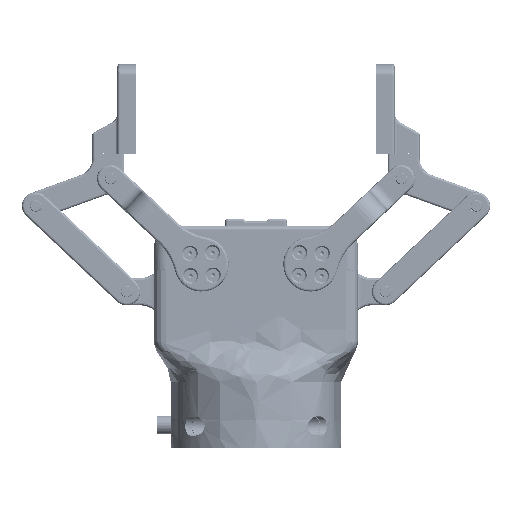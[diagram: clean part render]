
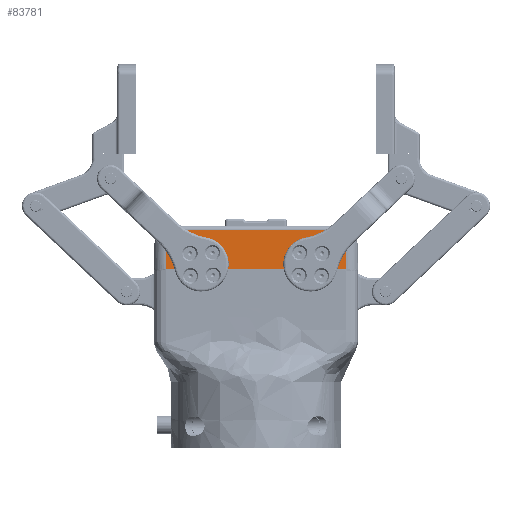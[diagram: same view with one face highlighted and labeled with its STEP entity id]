
A CAD part, top view. The second image highlights one B-rep face of the part: STEP entity #83781.
In plain terms, the highlighted planar face has unit normal (0, 0, 1).
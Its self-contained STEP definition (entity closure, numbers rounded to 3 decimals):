
#1535 = EDGE_CURVE ( 'NONE', #138266, #131244, #233007, .T. ) ;
#3807 = PLANE ( 'NONE',  #89469 ) ;
#12967 = CIRCLE ( 'NONE', #228115, 11.1 ) ;
#15771 = DIRECTION ( 'NONE',  ( 0., 0., 1. ) ) ;
#23408 = DIRECTION ( 'NONE',  ( 0., -1., 0. ) ) ;
#26548 = CARTESIAN_POINT ( 'NONE',  ( -39.75, 78.85, 24. ) ) ;
#31200 = DIRECTION ( 'NONE',  ( -1., 0., 0. ) ) ;
#33441 = VECTOR ( 'NONE', #23408, 1000. ) ;
#35302 = AXIS2_PLACEMENT_3D ( 'NONE', #241891, #328070, #160421 ) ;
#35786 = CARTESIAN_POINT ( 'NONE',  ( 35., 95.75, 24. ) ) ;
#37979 = CARTESIAN_POINT ( 'NONE',  ( -24., 80.75, 24. ) ) ;
#39850 = VERTEX_POINT ( 'NONE', #176173 ) ;
#42395 = CARTESIAN_POINT ( 'NONE',  ( 35., 95.75, 24. ) ) ;
#43286 = AXIS2_PLACEMENT_3D ( 'NONE', #264673, #15771, #233063 ) ;
#43569 = CARTESIAN_POINT ( 'NONE',  ( 38.362, 95.211, 24. ) ) ;
#46152 = EDGE_CURVE ( 'NONE', #39850, #281504, #285322, .T. ) ;
#49156 = CARTESIAN_POINT ( 'NONE',  ( -36.724, 95.75, 24. ) ) ;
#52901 = EDGE_CURVE ( 'NONE', #131244, #135301, #334523, .T. ) ;
#55506 = CARTESIAN_POINT ( 'NONE',  ( -45., 78.85, 24. ) ) ;
#58397 = EDGE_CURVE ( 'NONE', #146447, #309860, #341947, .T. ) ;
#59513 = CARTESIAN_POINT ( 'NONE',  ( 39.75, 78.85, 24. ) ) ;
#68324 = ORIENTED_EDGE ( 'NONE', *, *, #183040, .F. ) ;
#71184 = EDGE_CURVE ( 'NONE', #84314, #178158, #99959, .T. ) ;
#82882 = ORIENTED_EDGE ( 'NONE', *, *, #1535, .F. ) ;
#83781 = ADVANCED_FACE ( 'NONE', ( #171485 ), #3807, .F. ) ;
#84314 = VERTEX_POINT ( 'NONE', #26548 ) ;
#86923 = VECTOR ( 'NONE', #31200, 1000. ) ;
#88183 = ORIENTED_EDGE ( 'NONE', *, *, #58397, .F. ) ;
#89469 = AXIS2_PLACEMENT_3D ( 'NONE', #255115, #308482, #282966 ) ;
#90471 = VERTEX_POINT ( 'NONE', #35786 ) ;
#94961 = CARTESIAN_POINT ( 'NONE',  ( -35., 95.75, 24. ) ) ;
#97640 = VECTOR ( 'NONE', #121968, 1000. ) ;
#99580 = ORIENTED_EDGE ( 'NONE', *, *, #139298, .F. ) ;
#99959 = LINE ( 'NONE', #306371, #334512 ) ;
#102387 = VECTOR ( 'NONE', #209434, 1000. ) ;
#107369 = CARTESIAN_POINT ( 'NONE',  ( -35., 95.75, 24. ) ) ;
#116396 = CARTESIAN_POINT ( 'NONE',  ( 13.064, 78.85, 24. ) ) ;
#118723 = CARTESIAN_POINT ( 'NONE',  ( -12.9, 80.75, 24. ) ) ;
#121968 = DIRECTION ( 'NONE',  ( -1., 0., 0. ) ) ;
#123726 = CARTESIAN_POINT ( 'NONE',  ( 36.724, 95.75, 24. ) ) ;
#131244 = VERTEX_POINT ( 'NONE', #224231 ) ;
#135301 = VERTEX_POINT ( 'NONE', #174331 ) ;
#136609 = LINE ( 'NONE', #233650, #97640 ) ;
#138266 = VERTEX_POINT ( 'NONE', #118723 ) ;
#139298 = EDGE_CURVE ( 'NONE', #135301, #84314, #160787, .T. ) ;
#143799 = AXIS2_PLACEMENT_3D ( 'NONE', #37979, #176350, #179942 ) ;
#146447 = VERTEX_POINT ( 'NONE', #190375 ) ;
#149986 = CARTESIAN_POINT ( 'NONE',  ( -45., 78.85, 24. ) ) ;
#160421 = DIRECTION ( 'NONE',  ( 1., 0., 0. ) ) ;
#160787 = LINE ( 'NONE', #55506, #86923 ) ;
#161818 = ORIENTED_EDGE ( 'NONE', *, *, #311613, .F. ) ;
#165077 = ORIENTED_EDGE ( 'NONE', *, *, #263326, .F. ) ;
#165912 = CARTESIAN_POINT ( 'NONE',  ( -24., 80.75, 24. ) ) ;
#171485 = FACE_OUTER_BOUND ( 'NONE', #209924, .T. ) ;
#174331 = CARTESIAN_POINT ( 'NONE',  ( -34.936, 78.85, 24. ) ) ;
#176173 = CARTESIAN_POINT ( 'NONE',  ( 39.75, 94.187, 24. ) ) ;
#176279 = LINE ( 'NONE', #149986, #102387 ) ;
#176350 = DIRECTION ( 'NONE',  ( 0., 0., 1. ) ) ;
#178158 = VERTEX_POINT ( 'NONE', #189718 ) ;
#179942 = DIRECTION ( 'NONE',  ( 1., 0., 0. ) ) ;
#183040 = EDGE_CURVE ( 'NONE', #352209, #90471, #285241, .T. ) ;
#186604 = EDGE_CURVE ( 'NONE', #90471, #39850, #356988, .T. ) ;
#189718 = CARTESIAN_POINT ( 'NONE',  ( -39.75, 94.187, 24. ) ) ;
#190375 = CARTESIAN_POINT ( 'NONE',  ( 34.936, 78.85, 24. ) ) ;
#193789 = CARTESIAN_POINT ( 'NONE',  ( -13.064, 78.85, 24. ) ) ;
#208230 = ORIENTED_EDGE ( 'NONE', *, *, #71184, .F. ) ;
#209434 = DIRECTION ( 'NONE',  ( -1., 0., 0. ) ) ;
#209924 = EDGE_LOOP ( 'NONE', ( #88183, #165077, #300995, #226981, #68324, #161818, #208230, #99580, #327969, #82882, #294007, #331573 ) ) ;
#211356 = VECTOR ( 'NONE', #213880, 1000. ) ;
#213880 = DIRECTION ( 'NONE',  ( 1., 0., 0. ) ) ;
#219195 = EDGE_CURVE ( 'NONE', #221130, #138266, #12967, .T. ) ;
#221130 = VERTEX_POINT ( 'NONE', #193789 ) ;
#224231 = CARTESIAN_POINT ( 'NONE',  ( -35.1, 80.75, 24. ) ) ;
#226981 = ORIENTED_EDGE ( 'NONE', *, *, #186604, .F. ) ;
#228115 = AXIS2_PLACEMENT_3D ( 'NONE', #165912, #332346, #309156 ) ;
#233007 = CIRCLE ( 'NONE', #143799, 11.1 ) ;
#233063 = DIRECTION ( 'NONE',  ( 0., -1., 0. ) ) ;
#233650 = CARTESIAN_POINT ( 'NONE',  ( -45., 78.85, 24. ) ) ;
#241891 = CARTESIAN_POINT ( 'NONE',  ( -24., 80.75, 24. ) ) ;
#255115 = CARTESIAN_POINT ( 'NONE',  ( -45., 97.75, 24. ) ) ;
#263326 = EDGE_CURVE ( 'NONE', #281504, #146447, #176279, .T. ) ;
#264673 = CARTESIAN_POINT ( 'NONE',  ( 24., 80.75, 24. ) ) ;
#265639 = EDGE_CURVE ( 'NONE', #309860, #221130, #136609, .T. ) ;
#268579 = CARTESIAN_POINT ( 'NONE',  ( 0., 95.75, 24. ) ) ;
#281504 = VERTEX_POINT ( 'NONE', #59513 ) ;
#282966 = DIRECTION ( 'NONE',  ( -1., 0., 0. ) ) ;
#283268 = DIRECTION ( 'NONE',  ( 0., 1., 0. ) ) ;
#285241 = LINE ( 'NONE', #268579, #211356 ) ;
#285322 = LINE ( 'NONE', #328145, #33441 ) ;
#288621 =( BOUNDED_CURVE ( )  B_SPLINE_CURVE ( 3, ( #298025, #323626, #49156, #107369 ),
 .UNSPECIFIED., .F., .F. ) 
 B_SPLINE_CURVE_WITH_KNOTS ( ( 4, 4 ),
 ( 0., 1. ),
 .UNSPECIFIED. ) 
 CURVE ( )  GEOMETRIC_REPRESENTATION_ITEM ( )  RATIONAL_B_SPLINE_CURVE ( ( 1., 0.967, 0.967, 1. ) ) 
 REPRESENTATION_ITEM ( '' )  );
#294007 = ORIENTED_EDGE ( 'NONE', *, *, #219195, .F. ) ;
#298025 = CARTESIAN_POINT ( 'NONE',  ( -39.75, 94.187, 24. ) ) ;
#300995 = ORIENTED_EDGE ( 'NONE', *, *, #46152, .F. ) ;
#306371 = CARTESIAN_POINT ( 'NONE',  ( -39.75, 97.75, 24. ) ) ;
#308482 = DIRECTION ( 'NONE',  ( 0., 0., -1. ) ) ;
#309156 = DIRECTION ( 'NONE',  ( 1., 0., 0. ) ) ;
#309860 = VERTEX_POINT ( 'NONE', #116396 ) ;
#311613 = EDGE_CURVE ( 'NONE', #178158, #352209, #288621, .T. ) ;
#323626 = CARTESIAN_POINT ( 'NONE',  ( -38.362, 95.211, 24. ) ) ;
#327969 = ORIENTED_EDGE ( 'NONE', *, *, #52901, .F. ) ;
#328070 = DIRECTION ( 'NONE',  ( 0., 0., 1. ) ) ;
#328145 = CARTESIAN_POINT ( 'NONE',  ( 39.75, 97.75, 24. ) ) ;
#331573 = ORIENTED_EDGE ( 'NONE', *, *, #265639, .F. ) ;
#332346 = DIRECTION ( 'NONE',  ( 0., 0., 1. ) ) ;
#334512 = VECTOR ( 'NONE', #283268, 1000. ) ;
#334523 = CIRCLE ( 'NONE', #35302, 11.1 ) ;
#341947 = CIRCLE ( 'NONE', #43286, 11.1 ) ;
#349569 = CARTESIAN_POINT ( 'NONE',  ( 39.75, 94.187, 24. ) ) ;
#352209 = VERTEX_POINT ( 'NONE', #94961 ) ;
#356988 =( BOUNDED_CURVE ( )  B_SPLINE_CURVE ( 3, ( #42395, #123726, #43569, #349569 ),
 .UNSPECIFIED., .F., .F. ) 
 B_SPLINE_CURVE_WITH_KNOTS ( ( 4, 4 ),
 ( 0., 1. ),
 .UNSPECIFIED. ) 
 CURVE ( )  GEOMETRIC_REPRESENTATION_ITEM ( )  RATIONAL_B_SPLINE_CURVE ( ( 1., 0.967, 0.967, 1. ) ) 
 REPRESENTATION_ITEM ( '' )  );
